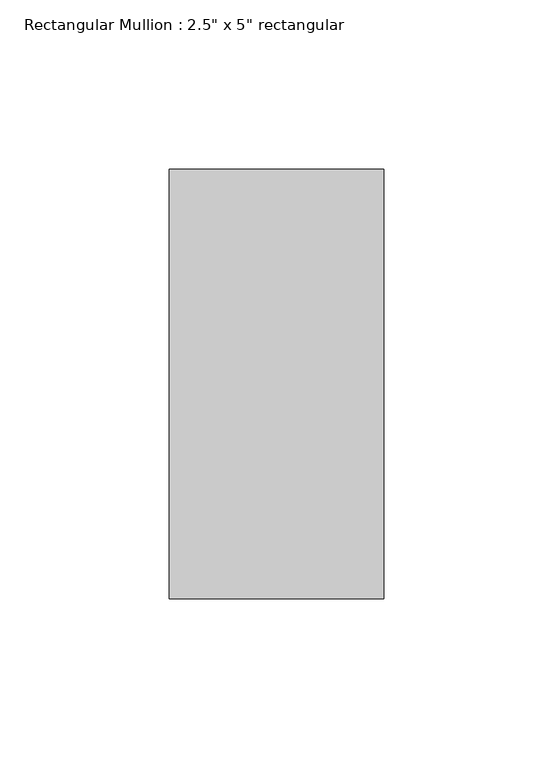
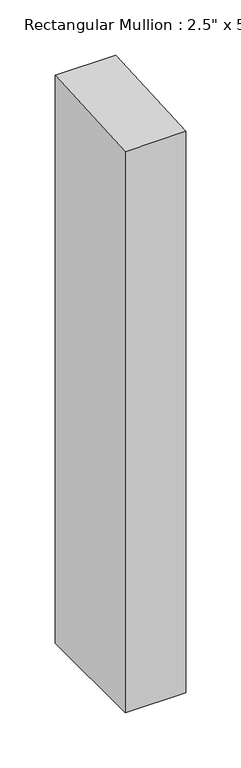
"""IFC4 building model written with IfcOpenShell, lengths in millimetres: member geometry."""

from ifc_helpers import new_model, si_unit, origin, place, context, project, spatial, faceted_brep, source, transform, mapped, element, save


def member_628a761d(model_context):
    return source(origin(), model_context, "Body", "Brep", [
        faceted_brep([(0.0, 63.5, -625.9387085), (0.0, -63.5, -625.9387085), (-63.5, -63.5, -625.9387085), (-63.5, 63.5, -625.9387085), (-63.5, 63.5, 3.6229405), (0.0, 63.5, 3.7383517), (-63.5, -63.5, -3.8537629), (0.0, -63.5, -3.7383517)], [[[0, 1, 2, 3]], [[4, 5, 0, 3]], [[6, 4, 3, 2]], [[7, 6, 2, 1]], [[5, 7, 1, 0]], [[5, 4, 6, 7]]]),
    ])


if __name__ == "__main__":
    model = new_model("IFC4")
    model_context = context("Model", 3, world=origin())
    ifc_project = project(units=[si_unit("LENGTHUNIT", "METRE", prefix="MILLI")], contexts=[model_context])
    site = spatial("IfcSite", under=ifc_project)
    building = spatial("IfcBuilding", under=site)
    placement = place(None, origin())
    member_shape = member_628a761d(model_context)
    element("IfcMember", 1, ObjectType="Rectangular Mullion : 2.5\" x 5\" rectangular", at=placement, inside=building, context=model_context, shape_type="MappedRepresentation", body=[
        mapped(member_shape, transform((0.0, 0.0, 0.0), x_axis=(1.0, 0.0, 0.0), y_axis=(0.0, 1.0, 0.0), z_axis=(0.0, 0.0, 1.0))),
    ])
    save(model, "model.ifc")
